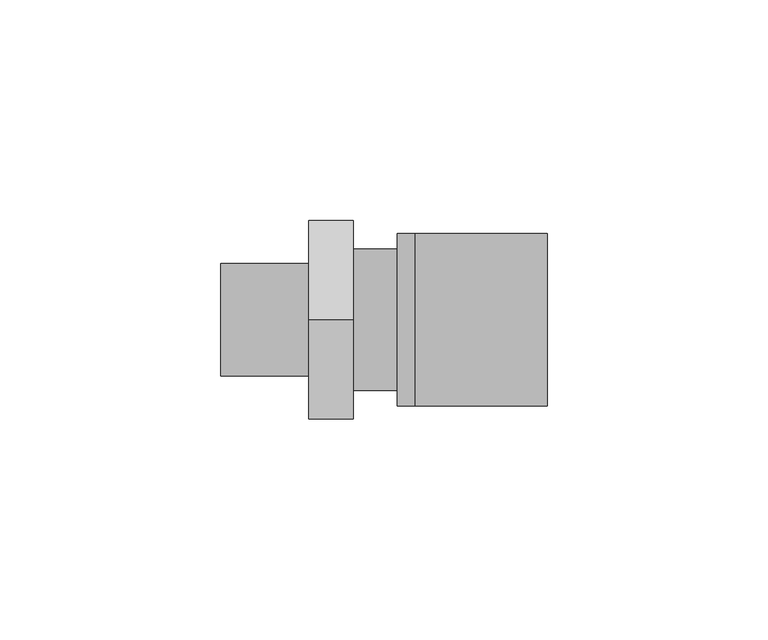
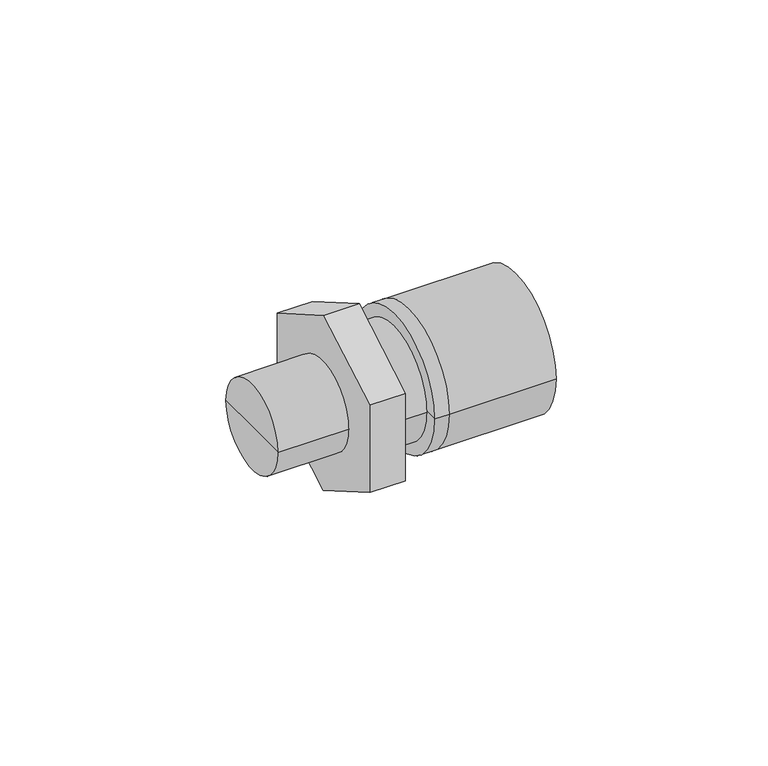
"""IFC4 building model written with IfcOpenShell, lengths in millimetres: pipe fitting geometry, KAN-therm Push złączka z gw 1 : KAN-therm Push złączka z gw 1."""

from ifc_helpers import new_model, si_unit, frame, origin, place, context, project, spatial, polyline, circle_curve, outline, extrude, source, transform, mapped, element, save
from ifc_brep_helpers import plane_surface, cylinder_surface, advanced_brep


def pipe_fitting_3e949ba1(model_context):
    return source(origin(), model_context, "Body", "SolidModel", [
        advanced_brep(
        [(24.0, -19.5, 0.0), (24.0, 19.5, 0.0), (24.0, 0.0, 0.0), (20.0, -19.5, 0.0), (20.0, 19.5, 0.0), (20.0, 0.0, 0.0)],
        [
            (0, 1, circle_curve(frame((24.0, 0.0, 0.0), z_axis=(1.0, 0.0, 0.0), x_axis=(0.0, 1.0, 0.0)), 19.5)),
            (1, 2),
            (2, 0),
            (1, 0, circle_curve(frame((24.0, 0.0, 0.0), z_axis=(1.0, 0.0, 0.0), x_axis=(0.0, 1.0, 0.0)), 19.5)),
            (3, 4, circle_curve(frame((20.0, 0.0, 0.0), z_axis=(1.0, 0.0, 0.0), x_axis=(0.0, 1.0, 0.0)), 19.5)),
            (4, 1),
            (0, 3),
            (4, 3, circle_curve(frame((20.0, 0.0, 0.0), z_axis=(1.0, 0.0, 0.0), x_axis=(0.0, 1.0, 0.0)), 19.5)),
            (5, 4),
            (3, 5),
        ],
        [
            plane_surface(frame((24.0, 0.0, 0.0), z_axis=(1.0, 0.0, 0.0), x_axis=(0.0, 1.0, 0.0))),
            cylinder_surface(frame((2031.0, 0.0, 0.0), z_axis=(-1.0, 0.0, 0.0), x_axis=(0.0, 1.0, 0.0)), 19.5),
            plane_surface(frame((20.0, 0.0, 0.0), z_axis=(-1.0, 0.0, 0.0), x_axis=(0.0, 1.0, 0.0))),
        ],
        [
            (0, [[1, 2, 3]]),
            (0, [[4, -3, -2]]),
            (1, [[5, 6, -1, 7]]),
            (1, [[8, -7, -4, -6]]),
            (2, [[9, -5, 10]]),
            (2, [[-10, -8, -9]]),
        ],
    ),
        advanced_brep(
        [(54.0, -19.5, 0.0), (54.0, 19.5, 0.0), (54.0, 0.0, 0.0), (24.0, -19.5, 0.0), (24.0, 19.5, 0.0), (24.0, 0.0, 0.0)],
        [
            (0, 1, circle_curve(frame((54.0, 0.0, 0.0), z_axis=(1.0, 0.0, 0.0), x_axis=(0.0, 1.0, 0.0)), 19.5)),
            (1, 2),
            (2, 0),
            (1, 0, circle_curve(frame((54.0, 0.0, 0.0), z_axis=(1.0, 0.0, 0.0), x_axis=(0.0, 1.0, 0.0)), 19.5)),
            (3, 4, circle_curve(frame((24.0, 0.0, 0.0), z_axis=(1.0, 0.0, 0.0), x_axis=(0.0, 1.0, 0.0)), 19.5)),
            (4, 1),
            (0, 3),
            (4, 3, circle_curve(frame((24.0, 0.0, 0.0), z_axis=(1.0, 0.0, 0.0), x_axis=(0.0, 1.0, 0.0)), 19.5)),
            (5, 4),
            (3, 5),
        ],
        [
            plane_surface(frame((54.0, 0.0, 0.0), z_axis=(1.0, 0.0, 0.0), x_axis=(0.0, 1.0, 0.0))),
            cylinder_surface(frame((2031.0, 0.0, 0.0), z_axis=(-1.0, 0.0, 0.0), x_axis=(0.0, 1.0, 0.0)), 19.5),
            plane_surface(frame((24.0, 0.0, 0.0), z_axis=(-1.0, 0.0, 0.0), x_axis=(0.0, 1.0, 0.0))),
        ],
        [
            (0, [[1, 2, 3]]),
            (0, [[4, -3, -2]]),
            (1, [[5, 6, -1, 7]]),
            (1, [[8, -7, -4, -6]]),
            (2, [[9, -5, 10]]),
            (2, [[-10, -8, -9]]),
        ],
    ),
        extrude(outline(polyline([(0.0, -25.9807621), (-22.5, -12.9903811), (-22.5, 12.9903811), (0.0, 25.9807621), (22.5, 12.9903811), (22.5, -12.9903811), (0.0, -25.9807621)])), frame((0.0, 0.0, 0.0), z_axis=(1.0, 0.0, 0.0), x_axis=(0.0, 1.0, 0.0)), (0.0, 0.0, 1.0), 10.0),
        advanced_brep(
        [(24.0, -16.0, 0.0), (24.0, 16.0, 0.0), (24.0, 0.0, 0.0), (10.0, -16.0, 0.0), (10.0, 16.0, 0.0), (10.0, 0.0, 0.0)],
        [
            (0, 1, circle_curve(frame((24.0, 0.0, 0.0), z_axis=(1.0, 0.0, 0.0), x_axis=(0.0, 1.0, 0.0)), 16.0)),
            (1, 2),
            (2, 0),
            (1, 0, circle_curve(frame((24.0, 0.0, 0.0), z_axis=(1.0, 0.0, 0.0), x_axis=(0.0, 1.0, 0.0)), 16.0)),
            (3, 4, circle_curve(frame((10.0, 0.0, 0.0), z_axis=(1.0, 0.0, 0.0), x_axis=(0.0, 1.0, 0.0)), 16.0)),
            (4, 1),
            (0, 3),
            (4, 3, circle_curve(frame((10.0, 0.0, 0.0), z_axis=(1.0, 0.0, 0.0), x_axis=(0.0, 1.0, 0.0)), 16.0)),
            (5, 4),
            (3, 5),
        ],
        [
            plane_surface(frame((24.0, 0.0, 0.0), z_axis=(1.0, 0.0, 0.0), x_axis=(0.0, 1.0, 0.0))),
            cylinder_surface(frame((2008.0, 0.0, 0.0), z_axis=(-1.0, 0.0, 0.0), x_axis=(0.0, 1.0, 0.0)), 16.0),
            plane_surface(frame((10.0, 0.0, 0.0), z_axis=(-1.0, 0.0, 0.0), x_axis=(0.0, 1.0, 0.0))),
        ],
        [
            (0, [[1, 2, 3]]),
            (0, [[4, -3, -2]]),
            (1, [[5, 6, -1, 7]]),
            (1, [[8, -7, -4, -6]]),
            (2, [[9, -5, 10]]),
            (2, [[-10, -8, -9]]),
        ],
    ),
        advanced_brep(
        [(0.0, -12.7, 0.0), (0.0, 12.7, 0.0), (0.0, 0.0, 0.0), (-20.0, -12.7, 0.0), (-20.0, 12.7, 0.0), (-20.0, 0.0, 0.0)],
        [
            (0, 1, circle_curve(frame((0.0, 0.0, 0.0), z_axis=(1.0, 0.0, 0.0), x_axis=(0.0, 1.0, 0.0)), 12.7)),
            (1, 2),
            (2, 0),
            (1, 0, circle_curve(frame((0.0, 0.0, 0.0), z_axis=(1.0, 0.0, 0.0), x_axis=(0.0, 1.0, 0.0)), 12.7)),
            (3, 4, circle_curve(frame((-20.0, 0.0, 0.0), z_axis=(1.0, 0.0, 0.0), x_axis=(0.0, 1.0, 0.0)), 12.7)),
            (4, 1),
            (0, 3),
            (4, 3, circle_curve(frame((-20.0, 0.0, 0.0), z_axis=(1.0, 0.0, 0.0), x_axis=(0.0, 1.0, 0.0)), 12.7)),
            (5, 4),
            (3, 5),
        ],
        [
            plane_surface(frame((0.0, 0.0, 0.0), z_axis=(1.0, 0.0, 0.0), x_axis=(0.0, 1.0, 0.0))),
            cylinder_surface(frame((2008.0, 0.0, 0.0), z_axis=(-1.0, 0.0, 0.0), x_axis=(0.0, 1.0, 0.0)), 12.7),
            plane_surface(frame((-20.0, 0.0, 0.0), z_axis=(-1.0, 0.0, 0.0), x_axis=(0.0, 1.0, 0.0))),
        ],
        [
            (0, [[1, 2, 3]]),
            (0, [[4, -3, -2]]),
            (1, [[5, 6, -1, 7]]),
            (1, [[8, -7, -4, -6]]),
            (2, [[9, -5, 10]]),
            (2, [[-10, -8, -9]]),
        ],
    ),
    ])


if __name__ == "__main__":
    model = new_model("IFC4")
    model_context = context("Model", 3, world=origin())
    ifc_project = project(units=[si_unit("LENGTHUNIT", "METRE", prefix="MILLI")], contexts=[model_context])
    site = spatial("IfcSite", under=ifc_project)
    building = spatial("IfcBuilding", under=site)
    placement = place(None, origin())
    pipe_fitting_shape = pipe_fitting_3e949ba1(model_context)
    element("IfcPipeFitting", 1, ObjectType="KAN-therm Push złączka z gw 1 : KAN-therm Push złączka z gw 1", at=placement, inside=building, context=model_context, shape_type="MappedRepresentation", body=[
        mapped(pipe_fitting_shape, transform((0.0, 0.0, 0.0), x_axis=(1.0, 0.0, 0.0), y_axis=(0.0, 1.0, 0.0), z_axis=(0.0, 0.0, 1.0))),
    ])
    save(model, "model.ifc")
